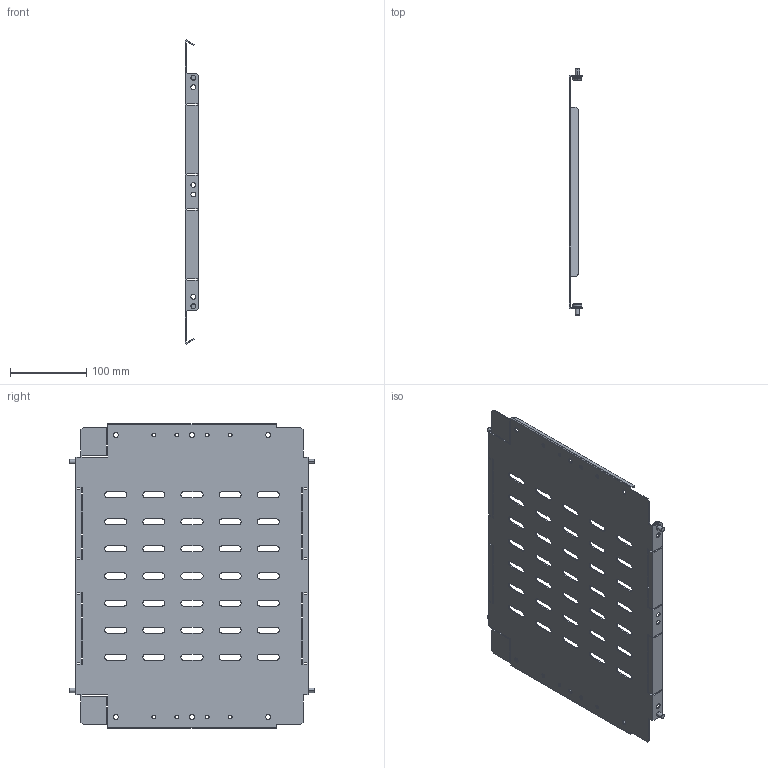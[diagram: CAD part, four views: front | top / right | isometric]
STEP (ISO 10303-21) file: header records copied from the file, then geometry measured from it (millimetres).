
FILE_DESCRIPTION (( 'STEP AP214' ), '1' );
FILE_NAME ('FO-00-SWV-040-040 Ïåðåãîðîäêà ñåêöèîíèðîâàíèÿ âåðòèêàëüíàÿ 400õ400 ìì.STEP', '2025-08-11T07:59:01', ( '' ), ( '' ), 'SwSTEP 2.0', 'SolidWorks 2023', '' );
FILE_SCHEMA (( 'AUTOMOTIVE_DESIGN' ));
Length unit declared in the file: millimetre
Products named in the file (1): FO-00-SWV-040-040 Перегородка секционирования вертикальная 400х400 мм
Bounding box: 17.5 x 322.5 x 398.93 mm (x, y, z)
Volume: 189989.7 mm3; surface area: 260532.6 mm2
Topology: 1 solids, 1 shells, 456 faces, 1338 edges, 884 vertices
Faces by surface type: plane 294, cylinder 138, torus 16, cone 8
Entity records: 15453 total; most frequent: CARTESIAN_POINT 2679, ORIENTED_EDGE 2676, DIRECTION 2568, EDGE_CURVE 1338, LINE 1022, VECTOR 1022, VERTEX_POINT 884, AXIS2_PLACEMENT_3D 773
